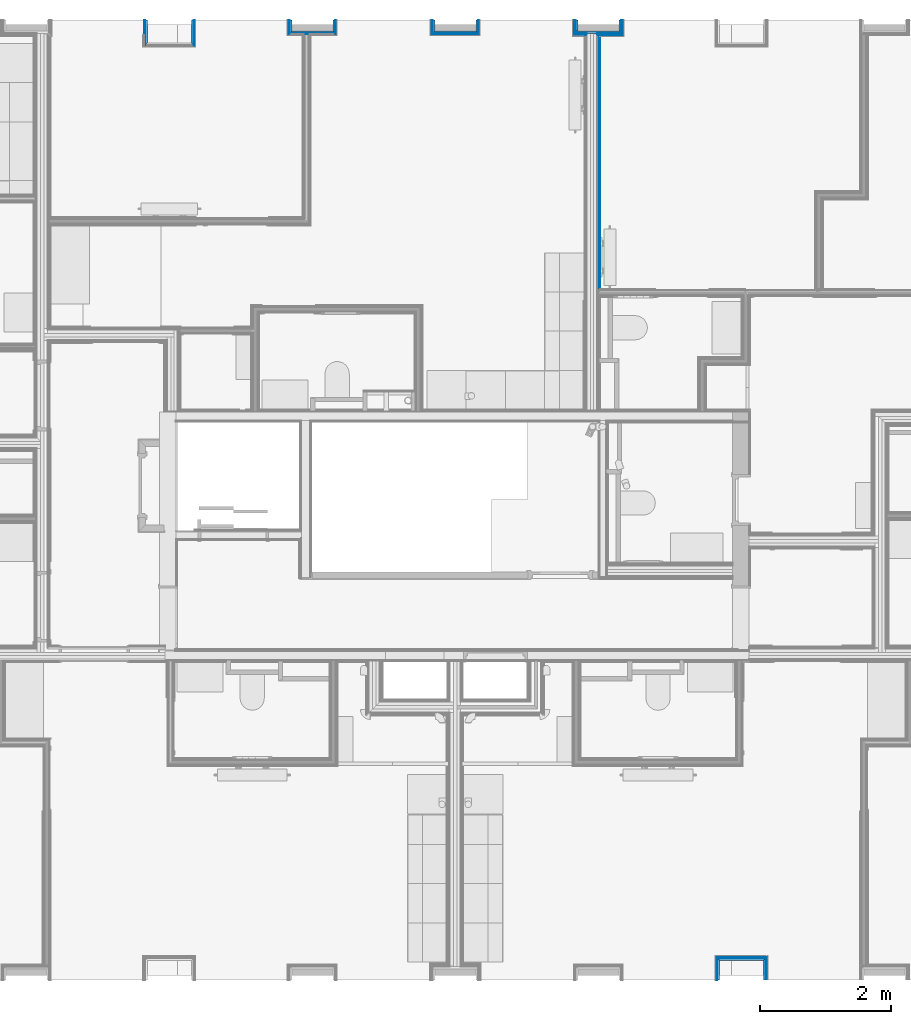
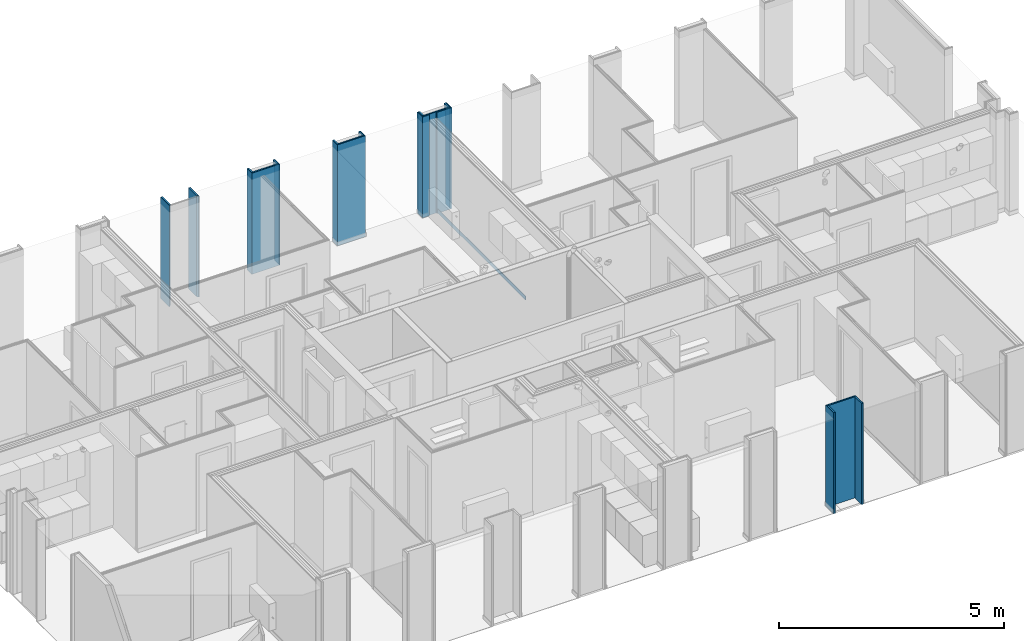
# One storey, part 18 of 82: 34 building element parts, 15 elements without a shape of their own.
"""IFC2X3 building model written with IfcOpenShell, lengths in metres."""

from ifc_helpers import new_model, entity, si_unit, converted_unit, derived_unit, money_unit, direction, frame, frame_2d, origin_with_axes, place, context, subcontext, project, spatial, polyline, rectangle, outline, extrude, material, type_object, element, aggregate, save


model = new_model("IFC2X3")

# Units and contexts
model_context = context("Model", 3, precision=1e-05, world=origin_with_axes(), true_north=direction((0.0, 1.0)))
body_context = subcontext(model_context, "Body", "Model", "MODEL_VIEW", scale=1.0)
ifc_project = project(units=[si_unit("LENGTHUNIT", "METRE"), si_unit("AREAUNIT", "SQUARE_METRE"), si_unit("VOLUMEUNIT", "CUBIC_METRE"), si_unit("ABSORBEDDOSEUNIT", "GRAY"), si_unit("AMOUNTOFSUBSTANCEUNIT", "MOLE"), si_unit("DOSEEQUIVALENTUNIT", "SIEVERT"), si_unit("ELECTRICCAPACITANCEUNIT", "FARAD"), si_unit("ELECTRICCHARGEUNIT", "COULOMB"), si_unit("ELECTRICCONDUCTANCEUNIT", "SIEMENS"), si_unit("ELECTRICCURRENTUNIT", "AMPERE"), si_unit("ELECTRICRESISTANCEUNIT", "OHM"), si_unit("ELECTRICVOLTAGEUNIT", "VOLT"), si_unit("ENERGYUNIT", "JOULE"), si_unit("FORCEUNIT", "NEWTON"), si_unit("FREQUENCYUNIT", "HERTZ"), si_unit("ILLUMINANCEUNIT", "LUX"), si_unit("INDUCTANCEUNIT", "HENRY"), si_unit("LUMINOUSFLUXUNIT", "LUMEN"), si_unit("LUMINOUSINTENSITYUNIT", "CANDELA"), si_unit("MAGNETICFLUXDENSITYUNIT", "TESLA"), si_unit("MAGNETICFLUXUNIT", "WEBER"), si_unit("MASSUNIT", "GRAM"), converted_unit("PLANEANGLEUNIT", "degree", entity("IfcReal", 0.0174532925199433), si_unit("PLANEANGLEUNIT", "RADIAN"), dimensions=[0, 0, 0, 0, 0, 0, 0]), si_unit("POWERUNIT", "WATT"), si_unit("PRESSUREUNIT", "PASCAL"), si_unit("RADIOACTIVITYUNIT", "BECQUEREL"), si_unit("SOLIDANGLEUNIT", "STERADIAN"), si_unit("THERMODYNAMICTEMPERATUREUNIT", "KELVIN"), si_unit("TIMEUNIT", "SECOND"), derived_unit("ACCELERATIONUNIT", [(si_unit("LENGTHUNIT", "METRE"), 1), (si_unit("TIMEUNIT", "SECOND"), -2)]), derived_unit("ANGULARVELOCITYUNIT", [(converted_unit("PLANEANGLEUNIT", "degree", entity("IfcReal", 0.0174532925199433), si_unit("PLANEANGLEUNIT", "RADIAN"), dimensions=[0, 0, 0, 0, 0, 0, 0]), 1), (si_unit("TIMEUNIT", "SECOND"), -1)]), derived_unit("CURVATUREUNIT", [(converted_unit("PLANEANGLEUNIT", "degree", entity("IfcReal", 0.0174532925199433), si_unit("PLANEANGLEUNIT", "RADIAN"), dimensions=[0, 0, 0, 0, 0, 0, 0]), 1), (si_unit("LENGTHUNIT", "METRE"), -1)]), derived_unit("DYNAMICVISCOSITYUNIT", [(si_unit("PRESSUREUNIT", "PASCAL"), 1), (si_unit("TIMEUNIT", "SECOND"), 1)]), derived_unit("HEATFLUXDENSITYUNIT", [(si_unit("POWERUNIT", "WATT"), 1), (si_unit("LENGTHUNIT", "METRE"), -2)]), derived_unit("HEATINGVALUEUNIT", [(si_unit("ENERGYUNIT", "JOULE"), 1), (si_unit("MASSUNIT", "GRAM"), -1)]), derived_unit("INTEGERCOUNTRATEUNIT", [(si_unit("TIMEUNIT", "SECOND"), -1)]), derived_unit("IONCONCENTRATIONUNIT", [(si_unit("MASSUNIT", "GRAM"), 1), (si_unit("VOLUMEUNIT", "CUBIC_METRE"), -1)]), derived_unit("ISOTHERMALMOISTURECAPACITYUNIT", [(si_unit("VOLUMEUNIT", "CUBIC_METRE"), 1), (si_unit("MASSUNIT", "GRAM"), -1)]), derived_unit("KINEMATICVISCOSITYUNIT", [(si_unit("AREAUNIT", "SQUARE_METRE"), 1), (si_unit("TIMEUNIT", "SECOND"), -1)]), derived_unit("LINEARFORCEUNIT", [(si_unit("FORCEUNIT", "NEWTON"), 1), (si_unit("LENGTHUNIT", "METRE"), -1)]), derived_unit("LINEARMOMENTUNIT", [(si_unit("FORCEUNIT", "NEWTON"), 1), (si_unit("LENGTHUNIT", "METRE"), -1)]), derived_unit("LINEARSTIFFNESSUNIT", [(si_unit("FORCEUNIT", "NEWTON"), 1), (si_unit("LENGTHUNIT", "METRE"), -1)]), derived_unit("LINEARVELOCITYUNIT", [(si_unit("LENGTHUNIT", "METRE"), 1), (si_unit("TIMEUNIT", "SECOND"), -1)]), derived_unit("LUMINOUSINTENSITYDISTRIBUTIONUNIT", [(si_unit("LUMINOUSINTENSITYUNIT", "CANDELA"), 1), (si_unit("LUMINOUSFLUXUNIT", "LUMEN"), -1)]), derived_unit("MASSDENSITYUNIT", [(si_unit("MASSUNIT", "GRAM"), 1), (si_unit("VOLUMEUNIT", "CUBIC_METRE"), -1)]), derived_unit("MASSFLOWRATEUNIT", [(si_unit("MASSUNIT", "GRAM"), 1), (si_unit("TIMEUNIT", "SECOND"), -1)]), derived_unit("MASSPERLENGTHUNIT", [(si_unit("MASSUNIT", "GRAM"), 1), (si_unit("LENGTHUNIT", "METRE"), -1)]), derived_unit("MODULUSOFELASTICITYUNIT", [(si_unit("FORCEUNIT", "NEWTON"), 1), (si_unit("AREAUNIT", "SQUARE_METRE"), -1)]), derived_unit("MODULUSOFLINEARSUBGRADEREACTIONUNIT", [(si_unit("FORCEUNIT", "NEWTON"), 1), (si_unit("LENGTHUNIT", "METRE"), -2)]), derived_unit("MODULUSOFROTATIONALSUBGRADEREACTIONUNIT", [(si_unit("FORCEUNIT", "NEWTON"), 1), (si_unit("LENGTHUNIT", "METRE"), 1)]), derived_unit("MODULUSOFSUBGRADEREACTIONUNIT", [(si_unit("FORCEUNIT", "NEWTON"), 1), (si_unit("VOLUMEUNIT", "CUBIC_METRE"), -1)]), derived_unit("MOISTUREDIFFUSIVITYUNIT", [(si_unit("VOLUMEUNIT", "CUBIC_METRE"), 1), (si_unit("TIMEUNIT", "SECOND"), -1)]), derived_unit("MOLECULARWEIGHTUNIT", [(si_unit("MASSUNIT", "GRAM"), 1), (si_unit("AMOUNTOFSUBSTANCEUNIT", "MOLE"), -1)]), derived_unit("PLANARFORCEUNIT", [(si_unit("FORCEUNIT", "NEWTON"), 1), (si_unit("LENGTHUNIT", "METRE"), -2)]), derived_unit("ROTATIONALFREQUENCYUNIT", [(si_unit("TIMEUNIT", "SECOND"), -1)]), derived_unit("ROTATIONALMASSUNIT", [(si_unit("MASSUNIT", "GRAM"), 1), (si_unit("LENGTHUNIT", "METRE"), 2)]), derived_unit("ROTATIONALSTIFFNESSUNIT", [(si_unit("FORCEUNIT", "NEWTON"), 1), (si_unit("LENGTHUNIT", "METRE"), 1), (converted_unit("PLANEANGLEUNIT", "degree", entity("IfcReal", 0.0174532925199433), si_unit("PLANEANGLEUNIT", "RADIAN"), dimensions=[0, 0, 0, 0, 0, 0, 0]), -1)]), derived_unit("SECTIONAREAINTEGRALUNIT", [(si_unit("LENGTHUNIT", "METRE"), 5)]), derived_unit("SECTIONMODULUSUNIT", [(si_unit("LENGTHUNIT", "METRE"), 3)]), derived_unit("SHEARMODULUSUNIT", [(si_unit("FORCEUNIT", "NEWTON"), 1), (si_unit("AREAUNIT", "SQUARE_METRE"), -1)]), derived_unit("SOUNDPOWERUNIT", [(si_unit("ENERGYUNIT", "JOULE"), 1), (si_unit("TIMEUNIT", "SECOND"), -1)]), derived_unit("SPECIFICHEATCAPACITYUNIT", [(si_unit("FORCEUNIT", "NEWTON"), 1), (si_unit("MASSUNIT", "GRAM"), -1), (si_unit("THERMODYNAMICTEMPERATUREUNIT", "KELVIN"), -1)]), derived_unit("TEMPERATUREGRADIENTUNIT", [(si_unit("THERMODYNAMICTEMPERATUREUNIT", "KELVIN"), 1), (si_unit("LENGTHUNIT", "METRE"), -1)]), derived_unit("THERMALADMITTANCEUNIT", [(si_unit("POWERUNIT", "WATT"), 1), (si_unit("AREAUNIT", "SQUARE_METRE"), -1), (si_unit("THERMODYNAMICTEMPERATUREUNIT", "KELVIN"), -1)]), derived_unit("THERMALCONDUCTANCEUNIT", [(si_unit("POWERUNIT", "WATT"), 1), (si_unit("LENGTHUNIT", "METRE"), -1), (si_unit("THERMODYNAMICTEMPERATUREUNIT", "KELVIN"), -1)]), derived_unit("THERMALEXPANSIONCOEFFICIENTUNIT", [(si_unit("THERMODYNAMICTEMPERATUREUNIT", "KELVIN"), -1)]), derived_unit("THERMALRESISTANCEUNIT", [(si_unit("AREAUNIT", "SQUARE_METRE"), 1), (si_unit("POWERUNIT", "WATT"), -1)]), derived_unit("THERMALTRANSMITTANCEUNIT", [(si_unit("POWERUNIT", "WATT"), 1), (si_unit("AREAUNIT", "SQUARE_METRE"), -1), (si_unit("THERMODYNAMICTEMPERATUREUNIT", "KELVIN"), -1)]), derived_unit("TORQUEUNIT", [(si_unit("FORCEUNIT", "NEWTON"), 1), (si_unit("LENGTHUNIT", "METRE"), 1)]), derived_unit("VAPORPERMEABILITYUNIT", [(si_unit("MASSUNIT", "GRAM"), 1), (si_unit("TIMEUNIT", "SECOND"), -1)]), derived_unit("VOLUMETRICFLOWRATEUNIT", [(si_unit("VOLUMEUNIT", "CUBIC_METRE"), 1), (si_unit("TIMEUNIT", "SECOND"), -1)]), derived_unit("WARPINGCONSTANTUNIT", [(si_unit("LENGTHUNIT", "METRE"), 6)]), derived_unit("WARPINGMOMENTUNIT", [(si_unit("FORCEUNIT", "NEWTON"), 1), (si_unit("LENGTHUNIT", "METRE"), 2)]), money_unit("GBP")], contexts=[model_context])

# Site, building, storey
site_placement = place(None, origin_with_axes())
site = spatial("IfcSite", under=ifc_project, at=site_placement, Name="Site", CompositionType="ELEMENT")
building_placement = place(site_placement, origin_with_axes())
building = spatial("IfcBuilding", under=site, at=building_placement, Name="Building01", CompositionType="ELEMENT")
storey_placement = place(building_placement, frame((0.0, 0.0, 12.13), z_axis=(0.0, 0.0, 1.0), x_axis=(1.0, 0.0, 0.0)))
storey = spatial("IfcBuildingStorey", under=building, at=storey_placement, Name="3F", CompositionType="ELEMENT", Elevation=12.13)

# Wall, building element parts
wall_type_1 = type_object("IfcWallType", Name="SHE_A-Walls_Type06d_ExternalWallInsulation_48mm", PredefinedType="NOTDEFINED")
wall_1_placement = place(storey_placement, frame((17.55, 0.1, 0.0), z_axis=(0.0, 0.0, 1.0), x_axis=(0.0, 1.0, 0.0)))
wall_1 = element("IfcWall", 1, at=wall_1_placement, inside=storey, type_object=wall_type_1, Name="6D", ObjectType="SHE_A-Walls_Type06d_ExternalWallInsulation_48mm")
ifc_material_1 = material(Name="A_BSUK_Insulation")
placement_1 = place(wall_1_placement, origin_with_axes())
building_element_part_1 = element("IfcBuildingElementPart", 2, at=placement_1, material=ifc_material_1, Name="1", context=body_context, shape_type="SweptSolid", body=[
    extrude(outline(polyline([(0.336, 0.036), (0.0, 0.036), (0.0, 0.0), (0.3, 0.0), (0.336, 0.036)])), origin_with_axes(), (0.0, 0.0, 1.0), 2.74),
])
ifc_material_2 = material(Name="A_BSUK_WallInternal_Finishes_Plasterboard")
building_element_part_2 = element("IfcBuildingElementPart", 3, at=placement_1, material=ifc_material_2, Name="2", context=body_context, shape_type="SweptSolid", body=[
    extrude(outline(polyline([(0.348, 0.048), (0.0, 0.048), (0.0, 0.035), (0.335, 0.035), (0.348, 0.048)])), origin_with_axes(), (0.0, 0.0, 1.0), 2.74),
])
aggregate(wall_1, [building_element_part_1, building_element_part_2])

wall_2_placement = place(storey_placement, frame((17.55, 0.4, 0.0), z_axis=(0.0, 0.0, 1.0), x_axis=(1.0, 0.0, 0.0)))
wall_2 = element("IfcWall", 4, at=wall_2_placement, inside=storey, type_object=wall_type_1, Name="6D", ObjectType="SHE_A-Walls_Type06d_ExternalWallInsulation_48mm")
placement_2 = place(wall_2_placement, origin_with_axes())
building_element_part_3 = element("IfcBuildingElementPart", 5, at=placement_2, material=ifc_material_1, Name="1", context=body_context, shape_type="SweptSolid", body=[
    extrude(outline(polyline([(0.700024, 0.036), (-0.036, 0.036), (0.0, 0.0), (0.700024, 0.0), (0.700024, 0.036)])), origin_with_axes(), (0.0, 0.0, 1.0), 2.74),
])
building_element_part_4 = element("IfcBuildingElementPart", 6, at=placement_2, material=ifc_material_2, Name="2", context=body_context, shape_type="SweptSolid", body=[
    extrude(outline(polyline([(0.700024, 0.048), (-0.048, 0.048), (-0.035, 0.035), (0.700024, 0.035), (0.700024, 0.048)])), origin_with_axes(), (0.0, 0.0, 1.0), 2.74),
])
aggregate(wall_2, [building_element_part_3, building_element_part_4])

wall_3_placement = place(storey_placement, frame((18.22, 0.4, 0.0), z_axis=(0.0, 0.0, 1.0), x_axis=(0.0, -1.0, 0.0)))
wall_3 = element("IfcWall", 7, at=wall_3_placement, inside=storey, type_object=wall_type_1, Name="6D", ObjectType="SHE_A-Walls_Type06d_ExternalWallInsulation_48mm")
placement_3 = place(wall_3_placement, origin_with_axes())
building_element_part_5 = element("IfcBuildingElementPart", 8, at=placement_3, material=ifc_material_1, Name="1", context=body_context, shape_type="SweptSolid", body=[
    extrude(outline(polyline([(-0.036, 0.036), (0.0, 0.0), (0.3, 0.0), (0.3, 0.036), (-0.036, 0.036)])), origin_with_axes(), (0.0, 0.0, 1.0), 2.74),
])
building_element_part_6 = element("IfcBuildingElementPart", 9, at=placement_3, material=ifc_material_2, Name="2", context=body_context, shape_type="SweptSolid", body=[
    extrude(outline(polyline([(-0.048, 0.048), (-0.035, 0.035), (0.3, 0.035), (0.3, 0.048), (-0.048, 0.048)])), origin_with_axes(), (0.0, 0.0, 1.0), 2.74),
])
aggregate(wall_3, [building_element_part_5, building_element_part_6])

wall_4_placement = place(storey_placement, frame((9.46, 14.8, 0.0), z_axis=(0.0, 0.0, 1.0), x_axis=(0.0, -1.0, 0.0)))
wall_4 = element("IfcWall", 10, at=wall_4_placement, inside=storey, type_object=wall_type_1, Name="6D", ObjectType="SHE_A-Walls_Type06d_ExternalWallInsulation_48mm")
placement_4 = place(wall_4_placement, origin_with_axes())
building_element_part_7 = element("IfcBuildingElementPart", 11, at=placement_4, material=ifc_material_1, Name="1", context=body_context, shape_type="SweptSolid", body=[
    extrude(outline(polyline([(0.386, 0.036), (0.0, 0.036), (0.0, 0.0), (0.35, 0.0), (0.386, 0.036)])), origin_with_axes(), (0.0, 0.0, 1.0), 2.74),
])
building_element_part_8 = element("IfcBuildingElementPart", 12, at=placement_4, material=ifc_material_2, Name="2", context=body_context, shape_type="SweptSolid", body=[
    extrude(outline(polyline([(0.398, 0.048), (0.0, 0.048), (0.0, 0.035), (0.385, 0.035), (0.398, 0.048)])), origin_with_axes(), (0.0, 0.0, 1.0), 2.74),
])
aggregate(wall_4, [building_element_part_7, building_element_part_8])

wall_5_placement = place(storey_placement, frame((8.79, 14.45, 0.0), z_axis=(0.0, 0.0, 1.0), x_axis=(0.0, 1.0, 0.0)))
wall_5 = element("IfcWall", 13, at=wall_5_placement, inside=storey, type_object=wall_type_1, Name="6D", ObjectType="SHE_A-Walls_Type06d_ExternalWallInsulation_48mm")
placement_5 = place(wall_5_placement, origin_with_axes())
building_element_part_9 = element("IfcBuildingElementPart", 14, at=placement_5, material=ifc_material_1, Name="1", context=body_context, shape_type="SweptSolid", body=[
    extrude(outline(polyline([(-0.036, 0.036), (0.0, 0.0), (0.35, 0.0), (0.35, 0.036), (-0.036, 0.036)])), origin_with_axes(), (0.0, 0.0, 1.0), 2.74),
])
building_element_part_10 = element("IfcBuildingElementPart", 15, at=placement_5, material=ifc_material_2, Name="2", context=body_context, shape_type="SweptSolid", body=[
    extrude(outline(polyline([(-0.048, 0.048), (-0.035, 0.035), (0.35, 0.035), (0.35, 0.048), (-0.048, 0.048)])), origin_with_axes(), (0.0, 0.0, 1.0), 2.74),
])
aggregate(wall_5, [building_element_part_9, building_element_part_10])

wall_6_placement = place(storey_placement, frame((11.627, 14.8, 0.0), z_axis=(0.0, 0.0, 1.0), x_axis=(0.0, -1.0, 0.0)))
wall_6 = element("IfcWall", 16, at=wall_6_placement, inside=storey, type_object=wall_type_1, Name="6D", ObjectType="SHE_A-Walls_Type06d_ExternalWallInsulation_48mm")
placement_6 = place(wall_6_placement, origin_with_axes())
building_element_part_11 = element("IfcBuildingElementPart", 17, at=placement_6, material=ifc_material_1, Name="1", context=body_context, shape_type="SweptSolid", body=[
    extrude(outline(polyline([(0.206, 0.036), (0.0, 0.036), (0.0, 0.0), (0.17, 0.0), (0.206, 0.036)])), origin_with_axes(), (0.0, 0.0, 1.0), 2.74),
])
building_element_part_12 = element("IfcBuildingElementPart", 18, at=placement_6, material=ifc_material_2, Name="2", context=body_context, shape_type="SweptSolid", body=[
    extrude(outline(polyline([(0.218, 0.048), (0.0, 0.048), (0.0, 0.035), (0.205, 0.035), (0.218, 0.048)])), origin_with_axes(), (0.0, 0.0, 1.0), 2.74),
])
aggregate(wall_6, [building_element_part_11, building_element_part_12])

wall_7_placement = place(storey_placement, frame((11.003, 14.63, 0.0), z_axis=(0.0, 0.0, 1.0), x_axis=(0.0, 1.0, 0.0)))
wall_7 = element("IfcWall", 19, at=wall_7_placement, inside=storey, type_object=wall_type_1, Name="6D", ObjectType="SHE_A-Walls_Type06d_ExternalWallInsulation_48mm")
placement_7 = place(wall_7_placement, origin_with_axes())
building_element_part_13 = element("IfcBuildingElementPart", 20, at=placement_7, material=ifc_material_1, Name="1", context=body_context, shape_type="SweptSolid", body=[
    extrude(outline(polyline([(-0.036, 0.036), (0.0, 0.0), (0.17, 0.0), (0.17, 0.036), (-0.036, 0.036)])), origin_with_axes(), (0.0, 0.0, 1.0), 2.74),
])
building_element_part_14 = element("IfcBuildingElementPart", 21, at=placement_7, material=ifc_material_2, Name="2", context=body_context, shape_type="SweptSolid", body=[
    extrude(outline(polyline([(-0.048, 0.048), (-0.035, 0.035), (0.17, 0.035), (0.17, 0.048), (-0.048, 0.048)])), origin_with_axes(), (0.0, 0.0, 1.0), 2.74),
])
aggregate(wall_7, [building_element_part_13, building_element_part_14])

wall_8_placement = place(storey_placement, frame((13.817, 14.8, 0.0), z_axis=(0.0, 0.0, 1.0), x_axis=(0.0, -1.0, 0.0)))
wall_8 = element("IfcWall", 22, at=wall_8_placement, inside=storey, type_object=wall_type_1, Name="6D", ObjectType="SHE_A-Walls_Type06d_ExternalWallInsulation_48mm")
placement_8 = place(wall_8_placement, origin_with_axes())
building_element_part_15 = element("IfcBuildingElementPart", 23, at=placement_8, material=ifc_material_1, Name="1", context=body_context, shape_type="SweptSolid", body=[
    extrude(outline(polyline([(0.206, 0.036), (0.0, 0.036), (0.0, 0.0), (0.17, 0.0), (0.206, 0.036)])), origin_with_axes(), (0.0, 0.0, 1.0), 2.74),
])
building_element_part_16 = element("IfcBuildingElementPart", 24, at=placement_8, material=ifc_material_2, Name="2", context=body_context, shape_type="SweptSolid", body=[
    extrude(outline(polyline([(0.218, 0.048), (0.0, 0.048), (0.0, 0.035), (0.205, 0.035), (0.218, 0.048)])), origin_with_axes(), (0.0, 0.0, 1.0), 2.74),
])
aggregate(wall_8, [building_element_part_15, building_element_part_16])

wall_9_placement = place(storey_placement, frame((13.817, 14.63, 0.0), z_axis=(0.0, 0.0, 1.0), x_axis=(-1.0, 0.0, 0.0)))
wall_9 = element("IfcWall", 25, at=wall_9_placement, inside=storey, type_object=wall_type_1, Name="6D", ObjectType="SHE_A-Walls_Type06d_ExternalWallInsulation_48mm")
placement_9 = place(wall_9_placement, origin_with_axes())
building_element_part_17 = element("IfcBuildingElementPart", 26, at=placement_9, material=ifc_material_1, Name="1", context=body_context, shape_type="SweptSolid", body=[
    extrude(outline(polyline([(0.66, 0.036), (-0.036, 0.036), (0.0, 0.0), (0.624, 0.0), (0.66, 0.036)])), origin_with_axes(), (0.0, 0.0, 1.0), 2.74),
])
building_element_part_18 = element("IfcBuildingElementPart", 27, at=placement_9, material=ifc_material_2, Name="2", context=body_context, shape_type="SweptSolid", body=[
    extrude(outline(polyline([(0.672, 0.048), (-0.048, 0.048), (-0.035, 0.035), (0.659, 0.035), (0.672, 0.048)])), origin_with_axes(), (0.0, 0.0, 1.0), 2.74),
])
aggregate(wall_9, [building_element_part_17, building_element_part_18])

wall_10_placement = place(storey_placement, frame((13.193, 14.63, 0.0), z_axis=(0.0, 0.0, 1.0), x_axis=(0.0, 1.0, 0.0)))
wall_10 = element("IfcWall", 28, at=wall_10_placement, inside=storey, type_object=wall_type_1, Name="6D", ObjectType="SHE_A-Walls_Type06d_ExternalWallInsulation_48mm")
placement_10 = place(wall_10_placement, origin_with_axes())
building_element_part_19 = element("IfcBuildingElementPart", 29, at=placement_10, material=ifc_material_1, Name="1", context=body_context, shape_type="SweptSolid", body=[
    extrude(outline(polyline([(-0.036, 0.036), (0.0, 0.0), (0.17, 0.0), (0.17, 0.036), (-0.036, 0.036)])), origin_with_axes(), (0.0, 0.0, 1.0), 2.74),
])
building_element_part_20 = element("IfcBuildingElementPart", 30, at=placement_10, material=ifc_material_2, Name="2", context=body_context, shape_type="SweptSolid", body=[
    extrude(outline(polyline([(-0.048, 0.048), (-0.035, 0.035), (0.17, 0.035), (0.17, 0.048), (-0.048, 0.048)])), origin_with_axes(), (0.0, 0.0, 1.0), 2.74),
])
aggregate(wall_10, [building_element_part_19, building_element_part_20])

# Wall, building element part
wall_type_2 = type_object("IfcWallType", Name="SHE_A-Walls_Type01c_Partywall_225mm_twin_tall", PredefinedType="NOTDEFINED")
wall_11_placement = place(storey_placement, frame((15.620132, 8.82, 0.0), z_axis=(0.0, 0.0, 1.0), x_axis=(0.0, 1.0, 0.0)))
wall_11 = element("IfcWall", 31, at=wall_11_placement, inside=storey, type_object=wall_type_2, Name="1C", ObjectType="SHE_A-Walls_Type01c_Partywall_225mm_twin_tall")
ifc_material_3 = material(Name="A_BSUK_Walls_Timber")
building_element_part_21_placement = place(wall_11_placement, origin_with_axes())
building_element_part_21 = element("IfcBuildingElementPart", 32, at=building_element_part_21_placement, material=ifc_material_3, Name="2", context=body_context, shape_type="SweptSolid", body=[
    extrude(rectangle(XDim=3.902, YDim=0.015, at=frame_2d((3.796, -0.0955), x_axis=(-1.0, 0.0))), frame((0.0, 0.0, 0.015), z_axis=(0.0, 0.0, 1.0), x_axis=(1.0, 0.0, 0.0)), (0.0, 0.0, 1.0), 0.1),
])
aggregate(wall_11, [building_element_part_21])

# Wall, building element parts
wall_12_placement = place(storey_placement, frame((11.627, 14.63, 0.0), z_axis=(0.0, 0.0, 1.0), x_axis=(-1.0, 0.0, 0.0)))
wall_12 = element("IfcWall", 33, at=wall_12_placement, inside=storey, type_object=wall_type_1, Name="6D", ObjectType="SHE_A-Walls_Type06d_ExternalWallInsulation_48mm")
placement_11 = place(wall_12_placement, origin_with_axes())
building_element_part_22 = element("IfcBuildingElementPart", 34, at=placement_11, material=ifc_material_1, Name="1", context=body_context, shape_type="SweptSolid", body=[
    extrude(outline(polyline([(0.66, 0.036), (-0.036, 0.036), (0.0, 0.0), (0.624, 0.0), (0.66, 0.036)])), origin_with_axes(), (0.0, 0.0, 1.0), 2.74),
])
building_element_part_23 = element("IfcBuildingElementPart", 35, at=placement_11, material=ifc_material_2, Name="2", context=body_context, shape_type="SweptSolid", body=[
    extrude(outline(polyline([(0.672, 0.048), (-0.048, 0.048), (-0.035, 0.035), (0.659, 0.035), (0.672, 0.048)])), origin_with_axes(), (0.0, 0.0, 1.0), 2.74),
])
aggregate(wall_12, [building_element_part_22, building_element_part_23])

wall_type_3 = type_object("IfcWallType", Name="SHE_A-Walls_Type06f_ExternalWallInsulation_48+15mm", PredefinedType="NOTDEFINED")
wall_13_placement = place(storey_placement, frame((15.383, 14.8, 0.0), z_axis=(0.0, 0.0, 1.0), x_axis=(0.0, -1.0, 0.0)))
wall_13 = element("IfcWall", 36, at=wall_13_placement, inside=storey, type_object=wall_type_3, Name="6F", ObjectType="SHE_A-Walls_Type06f_ExternalWallInsulation_48+15mm")
placement_12 = place(wall_13_placement, origin_with_axes())
building_element_part_24 = element("IfcBuildingElementPart", 37, at=placement_12, material=ifc_material_2, Name="2", context=body_context, shape_type="SweptSolid", body=[
    extrude(outline(polyline([(0.218, -0.048), (0.0, -0.048), (0.0, -0.063), (0.233, -0.063), (0.218, -0.048)])), origin_with_axes(), (0.0, 0.0, 1.0), 2.74),
])
building_element_part_25 = element("IfcBuildingElementPart", 38, at=placement_12, material=ifc_material_2, Name="3", context=body_context, shape_type="SweptSolid", body=[
    extrude(rectangle(XDim=0.206, YDim=0.012, at=frame_2d((0.103, -0.042), x_axis=(-1.0, 0.0))), origin_with_axes(), (0.0, 0.0, 1.0), 2.74),
])
building_element_part_26 = element("IfcBuildingElementPart", 39, at=placement_12, material=ifc_material_1, Name="4", context=body_context, shape_type="SweptSolid", body=[
    extrude(rectangle(XDim=0.17, YDim=0.036, at=frame_2d((0.085, -0.018), x_axis=(-1.0, 0.0))), origin_with_axes(), (0.0, 0.0, 1.0), 2.74),
])
aggregate(wall_13, [building_element_part_24, building_element_part_25, building_element_part_26])

wall_14_placement = place(storey_placement, frame((16.007124, 14.8, 0.0), z_axis=(0.0, 0.0, 1.0), x_axis=(0.0, -1.0, 0.0)))
wall_14 = element("IfcWall", 40, at=wall_14_placement, inside=storey, type_object=wall_type_3, Name="6F", ObjectType="SHE_A-Walls_Type06f_ExternalWallInsulation_48+15mm")
placement_13 = place(wall_14_placement, origin_with_axes())
building_element_part_27 = element("IfcBuildingElementPart", 41, at=placement_13, material=ifc_material_1, Name="1", context=body_context, shape_type="SweptSolid", body=[
    extrude(rectangle(XDim=0.17, YDim=0.036, at=frame_2d((0.085, 0.018), x_axis=(-1.0, 0.0))), origin_with_axes(), (0.0, 0.0, 1.0), 2.74),
])
building_element_part_28 = element("IfcBuildingElementPart", 42, at=placement_13, material=ifc_material_2, Name="2", context=body_context, shape_type="SweptSolid", body=[
    extrude(rectangle(XDim=0.206, YDim=0.012, at=frame_2d((0.103, 0.042), x_axis=(-1.0, 0.0))), origin_with_axes(), (0.0, 0.0, 1.0), 2.74),
])
building_element_part_29 = element("IfcBuildingElementPart", 43, at=placement_13, material=ifc_material_2, Name="3", context=body_context, shape_type="SweptSolid", body=[
    extrude(outline(polyline([(0.233, 0.063), (0.0, 0.063), (0.0, 0.048), (0.218, 0.048), (0.233, 0.063)])), origin_with_axes(), (0.0, 0.0, 1.0), 2.74),
])
aggregate(wall_14, [building_element_part_27, building_element_part_28, building_element_part_29])

wall_15_placement = place(storey_placement, frame((16.043124, 14.63, 0.0), z_axis=(0.0, 0.0, 1.0), x_axis=(-1.0, 0.0, 0.0)))
wall_15 = element("IfcWall", 44, at=wall_15_placement, inside=storey, type_object=wall_type_3, Name="6F", ObjectType="SHE_A-Walls_Type06f_ExternalWallInsulation_48+15mm")
placement_14 = place(wall_15_placement, origin_with_axes())
building_element_part_30 = element("IfcBuildingElementPart", 45, at=placement_14, material=ifc_material_1, Name="1", context=body_context, shape_type="SweptSolid", body=[
    extrude(rectangle(XDim=0.696124, YDim=0.036, at=frame_2d((0.348062, 0.018), x_axis=(-1.0, 0.0))), origin_with_axes(), (0.0, 0.0, 1.0), 2.74),
])
building_element_part_31 = element("IfcBuildingElementPart", 46, at=placement_14, material=ifc_material_2, Name="2", context=body_context, shape_type="SweptSolid", body=[
    extrude(rectangle(XDim=0.012, YDim=0.376992, at=frame_2d((0.176496, 0.042), x_axis=(0.0, -1.0))), origin_with_axes(), (0.0, 0.0, 1.0), 2.74),
])
building_element_part_32 = element("IfcBuildingElementPart", 47, at=placement_14, material=ifc_material_2, Name="3", context=body_context, shape_type="SweptSolid", body=[
    extrude(rectangle(XDim=0.178132, YDim=0.012, at=frame_2d((0.619058, 0.042), x_axis=(-1.0, 0.0))), origin_with_axes(), (0.0, 0.0, 1.0), 2.74),
])
building_element_part_33 = element("IfcBuildingElementPart", 48, at=placement_14, material=ifc_material_2, Name="4", context=body_context, shape_type="SweptSolid", body=[
    extrude(outline(polyline([(0.349992, 0.063), (-0.027, 0.063), (-0.012, 0.048), (0.349992, 0.048), (0.349992, 0.063)])), origin_with_axes(), (0.0, 0.0, 1.0), 2.74),
])
building_element_part_34 = element("IfcBuildingElementPart", 49, at=placement_14, material=ifc_material_2, Name="5", context=body_context, shape_type="SweptSolid", body=[
    extrude(outline(polyline([(0.723124, 0.063), (0.544992, 0.063), (0.544992, 0.048), (0.708124, 0.048), (0.723124, 0.063)])), origin_with_axes(), (0.0, 0.0, 1.0), 2.74),
])
aggregate(wall_15, [building_element_part_30, building_element_part_31, building_element_part_32, building_element_part_33, building_element_part_34])

save(model, "model.ifc")
